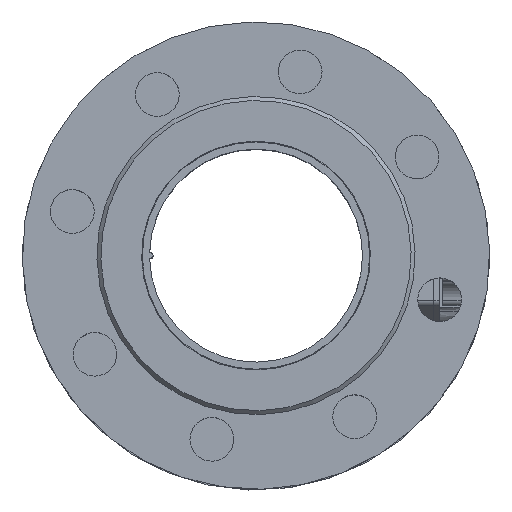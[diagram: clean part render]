
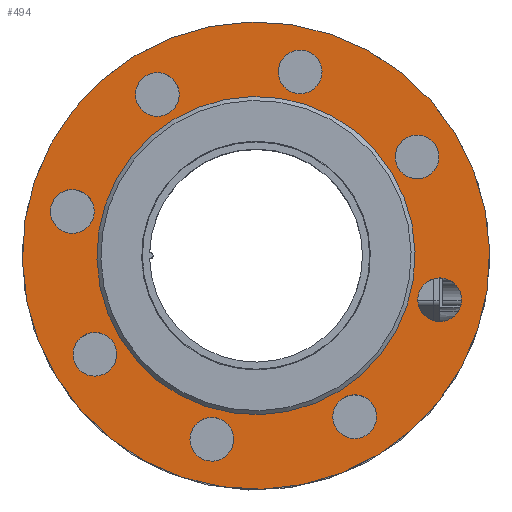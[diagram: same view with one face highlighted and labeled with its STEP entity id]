
A CAD part, top view. The second image highlights one B-rep face of the part: STEP entity #494.
In plain terms, the highlighted planar face has unit normal (0, 0, 1).
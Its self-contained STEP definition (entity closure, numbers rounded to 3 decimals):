
#494 = ADVANCED_FACE( '', ( #1122, #1123, #1124, #1125, #1126, #1127, #1128, #1129, #1130, #1131 ), #1132, .T. );
#1122 = FACE_BOUND( '', #2034, .T. );
#1123 = FACE_BOUND( '', #2035, .T. );
#1124 = FACE_BOUND( '', #2036, .T. );
#1125 = FACE_BOUND( '', #2037, .T. );
#1126 = FACE_BOUND( '', #2038, .T. );
#1127 = FACE_BOUND( '', #2039, .T. );
#1128 = FACE_BOUND( '', #2040, .T. );
#1129 = FACE_BOUND( '', #2041, .T. );
#1130 = FACE_OUTER_BOUND( '', #2042, .T. );
#1131 = FACE_BOUND( '', #2043, .T. );
#1132 = PLANE( '', #2044 );
#2034 = EDGE_LOOP( '', ( #6066 ) );
#2035 = EDGE_LOOP( '', ( #6067 ) );
#2036 = EDGE_LOOP( '', ( #6068 ) );
#2037 = EDGE_LOOP( '', ( #6069 ) );
#2038 = EDGE_LOOP( '', ( #6070 ) );
#2039 = EDGE_LOOP( '', ( #6071 ) );
#2040 = EDGE_LOOP( '', ( #6072 ) );
#2041 = EDGE_LOOP( '', ( #6073 ) );
#2042 = EDGE_LOOP( '', ( #6074 ) );
#2043 = EDGE_LOOP( '', ( #6075 ) );
#2044 = AXIS2_PLACEMENT_3D( '', #6076, #6077, #6078 );
#6066 = ORIENTED_EDGE( '', *, *, #8083, .T. );
#6067 = ORIENTED_EDGE( '', *, *, #8084, .T. );
#6068 = ORIENTED_EDGE( '', *, *, #8085, .T. );
#6069 = ORIENTED_EDGE( '', *, *, #8086, .T. );
#6070 = ORIENTED_EDGE( '', *, *, #8087, .T. );
#6071 = ORIENTED_EDGE( '', *, *, #8088, .T. );
#6072 = ORIENTED_EDGE( '', *, *, #8089, .T. );
#6073 = ORIENTED_EDGE( '', *, *, #8090, .T. );
#6074 = ORIENTED_EDGE( '', *, *, #8091, .T. );
#6075 = ORIENTED_EDGE( '', *, *, #8092, .F. );
#6076 = CARTESIAN_POINT( '', ( 117.5, 0., 24. ) );
#6077 = DIRECTION( '', ( 0., 0., 1. ) );
#6078 = DIRECTION( '', ( 1., 0., 0. ) );
#8083 = EDGE_CURVE( '', #8969, #8969, #8970, .T. );
#8084 = EDGE_CURVE( '', #8971, #8971, #8972, .T. );
#8085 = EDGE_CURVE( '', #8973, #8973, #8974, .T. );
#8086 = EDGE_CURVE( '', #8975, #8975, #8976, .T. );
#8087 = EDGE_CURVE( '', #8977, #8977, #8978, .T. );
#8088 = EDGE_CURVE( '', #8979, #8979, #8980, .T. );
#8089 = EDGE_CURVE( '', #8981, #8981, #8982, .T. );
#8090 = EDGE_CURVE( '', #8983, #8983, #8984, .T. );
#8091 = EDGE_CURVE( '', #8985, #8985, #8986, .T. );
#8092 = EDGE_CURVE( '', #8987, #8987, #8988, .T. );
#8969 = VERTEX_POINT( '', #10349 );
#8970 = CIRCLE( '', #10350, 11. );
#8971 = VERTEX_POINT( '', #10351 );
#8972 = CIRCLE( '', #10352, 11. );
#8973 = VERTEX_POINT( '', #10353 );
#8974 = CIRCLE( '', #10354, 11. );
#8975 = VERTEX_POINT( '', #10355 );
#8976 = CIRCLE( '', #10356, 11. );
#8977 = VERTEX_POINT( '', #10357 );
#8978 = CIRCLE( '', #10358, 11. );
#8979 = VERTEX_POINT( '', #10359 );
#8980 = CIRCLE( '', #10360, 11. );
#8981 = VERTEX_POINT( '', #10361 );
#8982 = CIRCLE( '', #10362, 11. );
#8983 = VERTEX_POINT( '', #10363 );
#8984 = CIRCLE( '', #10364, 11. );
#8985 = VERTEX_POINT( '', #10365 );
#8986 = CIRCLE( '', #10366, 117.5 );
#8987 = VERTEX_POINT( '', #10367 );
#8988 = CIRCLE( '', #10368, 80. );
#10349 = CARTESIAN_POINT( '', ( -95., -11., 24. ) );
#10350 = AXIS2_PLACEMENT_3D( '', #12817, #12818, #12819 );
#10351 = CARTESIAN_POINT( '', ( -67.175, -78.175, 24. ) );
#10352 = AXIS2_PLACEMENT_3D( '', #12820, #12821, #12822 );
#10353 = CARTESIAN_POINT( '', ( 0., -106., 24. ) );
#10354 = AXIS2_PLACEMENT_3D( '', #12823, #12824, #12825 );
#10355 = CARTESIAN_POINT( '', ( 67.175, -78.175, 24. ) );
#10356 = AXIS2_PLACEMENT_3D( '', #12826, #12827, #12828 );
#10357 = CARTESIAN_POINT( '', ( 95., -11., 24. ) );
#10358 = AXIS2_PLACEMENT_3D( '', #12829, #12830, #12831 );
#10359 = CARTESIAN_POINT( '', ( 67.175, 56.175, 24. ) );
#10360 = AXIS2_PLACEMENT_3D( '', #12832, #12833, #12834 );
#10361 = CARTESIAN_POINT( '', ( 0., 84., 24. ) );
#10362 = AXIS2_PLACEMENT_3D( '', #12835, #12836, #12837 );
#10363 = CARTESIAN_POINT( '', ( -67.175, 56.175, 24. ) );
#10364 = AXIS2_PLACEMENT_3D( '', #12838, #12839, #12840 );
#10365 = CARTESIAN_POINT( '', ( 117.5, 0., 24. ) );
#10366 = AXIS2_PLACEMENT_3D( '', #12841, #12842, #12843 );
#10367 = CARTESIAN_POINT( '', ( 80., 0., 24. ) );
#10368 = AXIS2_PLACEMENT_3D( '', #12844, #12845, #12846 );
#12817 = CARTESIAN_POINT( '', ( -95., 0., 24. ) );
#12818 = DIRECTION( '', ( 0., 0., -1. ) );
#12819 = DIRECTION( '', ( 0., -1., 0. ) );
#12820 = CARTESIAN_POINT( '', ( -67.175, -67.175, 24. ) );
#12821 = DIRECTION( '', ( 0., 0., -1. ) );
#12822 = DIRECTION( '', ( 0., -1., 0. ) );
#12823 = CARTESIAN_POINT( '', ( 0., -95., 24. ) );
#12824 = DIRECTION( '', ( 0., 0., -1. ) );
#12825 = DIRECTION( '', ( 0., -1., 0. ) );
#12826 = CARTESIAN_POINT( '', ( 67.175, -67.175, 24. ) );
#12827 = DIRECTION( '', ( 0., 0., -1. ) );
#12828 = DIRECTION( '', ( 0., -1., 0. ) );
#12829 = CARTESIAN_POINT( '', ( 95., 0., 24. ) );
#12830 = DIRECTION( '', ( 0., 0., -1. ) );
#12831 = DIRECTION( '', ( 0., -1., 0. ) );
#12832 = CARTESIAN_POINT( '', ( 67.175, 67.175, 24. ) );
#12833 = DIRECTION( '', ( 0., 0., -1. ) );
#12834 = DIRECTION( '', ( 0., -1., 0. ) );
#12835 = CARTESIAN_POINT( '', ( 0., 95., 24. ) );
#12836 = DIRECTION( '', ( 0., 0., -1. ) );
#12837 = DIRECTION( '', ( 0., -1., 0. ) );
#12838 = CARTESIAN_POINT( '', ( -67.175, 67.175, 24. ) );
#12839 = DIRECTION( '', ( 0., 0., -1. ) );
#12840 = DIRECTION( '', ( 0., -1., 0. ) );
#12841 = CARTESIAN_POINT( '', ( 0., 0., 24. ) );
#12842 = DIRECTION( '', ( 0., 0., 1. ) );
#12843 = DIRECTION( '', ( 1., 0., 0. ) );
#12844 = CARTESIAN_POINT( '', ( 0., 0., 24. ) );
#12845 = DIRECTION( '', ( 0., 0., 1. ) );
#12846 = DIRECTION( '', ( 1., 0., 0. ) );
